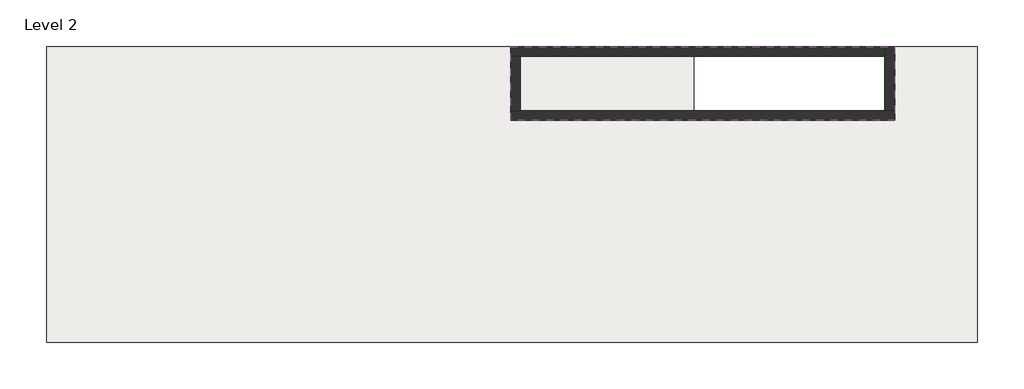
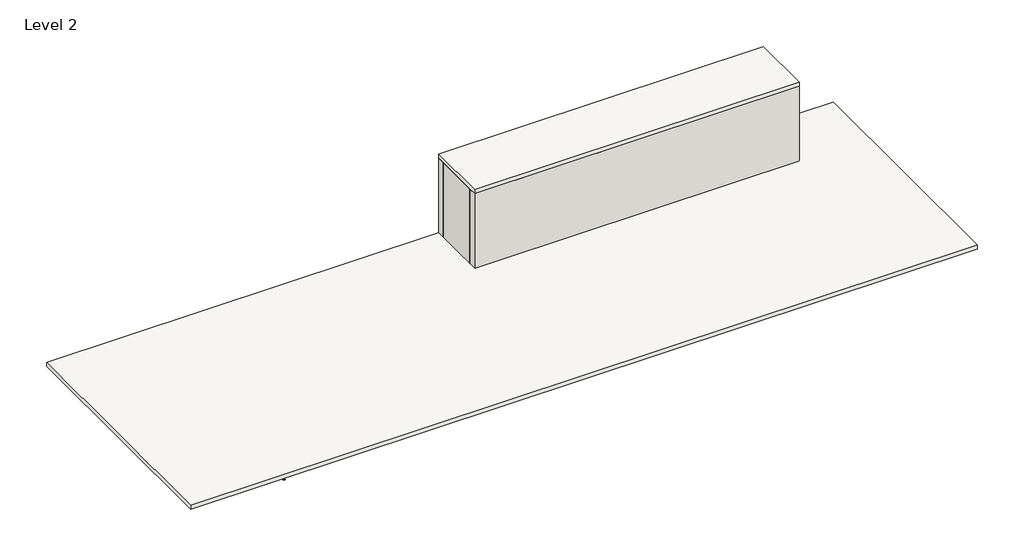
# One storey: 4 walls, 2 proxies, 2 slabs.
"""IFC4 building model written with IfcOpenShell, lengths in millimetres."""

from ifc_helpers import new_model, si_unit, frame, origin, place, context, project, spatial, polyline, outline, extrude, faceted_brep, transform, mapped, element, save
from components import generic_models_adb6d911, generic_models_c4c21ff8

model = new_model("IFC4")

# Units and contexts
model_context = context("Model", 3, world=origin())
ifc_project = project(units=[si_unit("LENGTHUNIT", "METRE", prefix="MILLI")], contexts=[model_context])

# Site, building, storey
site = spatial("IfcSite", under=ifc_project)
building = spatial("IfcBuilding", under=site)
storey = spatial("IfcBuildingStorey", under=building, Name="Level 2", Elevation=3100.0)

# Proxies
placement = place(None, origin())
generic_models_shape = generic_models_adb6d911(model_context)
element("IfcBuildingElementProxy", 1, Name="ArcPro Statue : ArcPro Statue", ObjectType="ArcPro Statue : ArcPro Statue", at=placement, inside=storey, context=model_context, shape_type="MappedRepresentation", body=[
    mapped(generic_models_shape, transform((8470.6769044, 1959.760891, 1040.0), x_axis=(0.0, 1.0, 0.0), y_axis=(-1.0, 0.0, 0.0), z_axis=(0.0, 0.0, 1.0))),
])
generic_models_2_shape = generic_models_c4c21ff8(model_context)
element("IfcBuildingElementProxy", 2, Name="ArcPro Statue : ArcPro Statue", ObjectType="ArcPro Statue : ArcPro Statue", at=placement, inside=storey, context=model_context, shape_type="MappedRepresentation", body=[
    mapped(generic_models_2_shape, transform((-1089.3230956, -1680.239109, 1600.0204944), x_axis=(0.0, 1.0, 0.0), y_axis=(-1.0, 0.0, 0.0), z_axis=(0.0, 0.0, 1.0))),
])

# Slabs
element("IfcSlab", 3, ObjectType="Generic 100mm", at=placement, inside=storey, context=model_context, shape_type="Brep", body=[
    faceted_brep([(8850.6769044, 2499.760891, 3000.0), (8850.6769044, 1199.760891, 3000.0), (12730.6769044, 1199.760891, 3000.0), (12730.6769044, 2499.760891, 3000.0), (14610.6769044, 2499.760891, 3000.0), (14610.6769044, -3500.239109, 3000.0), (-4289.3230956, -3500.239109, 3000.0), (-4289.3230956, 2299.760891, 3000.0), (-4289.3230956, 2499.760891, 3000.0), (8850.6769044, 2499.760891, 3100.0), (-4289.3230956, 2499.760891, 3100.0), (-4289.3230956, -3500.239109, 3100.0), (14610.6769044, -3500.239109, 3100.0), (14610.6769044, 2499.760891, 3100.0), (12930.6769044, 2499.760891, 3100.0), (12730.6769044, 2499.760891, 3100.0), (12730.6769044, 1199.760891, 3100.0), (8850.6769044, 1199.760891, 3100.0)], [[[0, 1, 2, 3, 4, 5, 6, 7, 8]], [[9, 10, 11, 12, 13, 14, 15, 16, 17]], [[5, 4, 13, 12]], [[6, 5, 12, 11]], [[8, 7, 6, 11, 10]], [[0, 8, 10, 9]], [[1, 0, 9, 17]], [[2, 1, 17, 16]], [[3, 2, 16, 15]], [[4, 3, 15, 14, 13]]]),
])
element("IfcSlab", 4, ObjectType="Generic 100mm", at=placement, inside=storey, context=model_context, shape_type="SweptSolid", body=[
    extrude(outline(polyline([(12930.6769044, 2499.760891), (12930.6769044, 999.760891), (5130.6769044, 999.760891), (5130.6769044, 2499.760891), (12930.6769044, 2499.760891)])), frame((0.0, 0.0, 5000.0), z_axis=(0.0, 0.0, 1.0), x_axis=(1.0, 0.0, 0.0)), (0.0, 0.0, 1.0), 100.0),
])

# Walls
element("IfcWall", 5, ObjectType="Generic - 200mm", at=placement, inside=storey, context=model_context, shape_type="Brep", body=[
    faceted_brep([(5130.6769044, 2299.760891, 3000.0), (12730.6769044, 2299.760891, 3000.0), (12730.6769044, 2299.760891, 5000.0), (5330.6769044, 2299.760891, 5000.0), (5130.6769044, 2299.760891, 5000.0), (5130.6769044, 2299.760891, 3100.0), (5130.6769044, 2499.760891, 3000.0), (5130.6769044, 2499.760891, 5000.0), (12730.6769044, 2499.760891, 5000.0), (12730.6769044, 2499.760891, 3100.0), (12730.6769044, 2499.760891, 3000.0)], [[[0, 1, 2, 3, 4, 5]], [[6, 7, 8, 9, 10]], [[1, 0, 6, 10]], [[4, 3, 2, 8, 7]], [[2, 1, 10, 9, 8]], [[0, 5, 4, 7, 6]]]),
])
element("IfcWall", 6, ObjectType="Generic - 200mm", at=placement, inside=storey, context=model_context, shape_type="Brep", body=[
    faceted_brep([(12930.6769044, 1199.760891, 3100.0), (12730.6769044, 1199.760891, 3100.0), (5330.6769044, 1199.760891, 3100.0), (5130.6769044, 1199.760891, 3100.0), (5130.6769044, 1199.760891, 5000.0), (5330.6769044, 1199.760891, 5000.0), (12730.6769044, 1199.760891, 5000.0), (12930.6769044, 1199.760891, 5000.0), (12930.6769044, 999.760891, 3100.0), (12930.6769044, 999.760891, 5000.0), (5130.6769044, 999.760891, 5000.0), (5130.6769044, 999.760891, 3100.0)], [[[0, 1, 2, 3, 4, 5, 6, 7]], [[8, 9, 10, 11]], [[3, 2, 1, 0, 8, 11]], [[0, 7, 9, 8]], [[7, 6, 5, 4, 10, 9]], [[4, 3, 11, 10]]]),
])
element("IfcWall", 7, ObjectType="Generic - 200mm", at=placement, inside=storey, context=model_context, shape_type="Brep", body=[
    faceted_brep([(12730.6769044, 2499.760891, 3100.0), (12730.6769044, 1199.760891, 3100.0), (12730.6769044, 1199.760891, 5000.0), (12730.6769044, 2299.760891, 5000.0), (12730.6769044, 2499.760891, 5000.0), (12930.6769044, 2499.760891, 3100.0), (12930.6769044, 2499.760891, 5000.0), (12930.6769044, 1199.760891, 5000.0), (12930.6769044, 1199.760891, 3100.0)], [[[0, 1, 2, 3, 4]], [[5, 6, 7, 8]], [[1, 0, 5, 8]], [[0, 4, 6, 5]], [[2, 1, 8, 7]], [[4, 3, 2, 7, 6]]]),
])
element("IfcWall", 8, ObjectType="Generic - 200mm", at=placement, inside=storey, context=model_context, shape_type="SweptSolid", body=[
    extrude(outline(polyline([(5130.6769044, 1199.760891), (5130.6769044, 2299.760891), (5330.6769044, 2299.760891), (5330.6769044, 1199.760891), (5130.6769044, 1199.760891)])), frame((0.0, 0.0, 3100.0), z_axis=(0.0, 0.0, 1.0), x_axis=(1.0, 0.0, 0.0)), (0.0, 0.0, 1.0), 1900.0),
])

save(model, "model.ifc")
